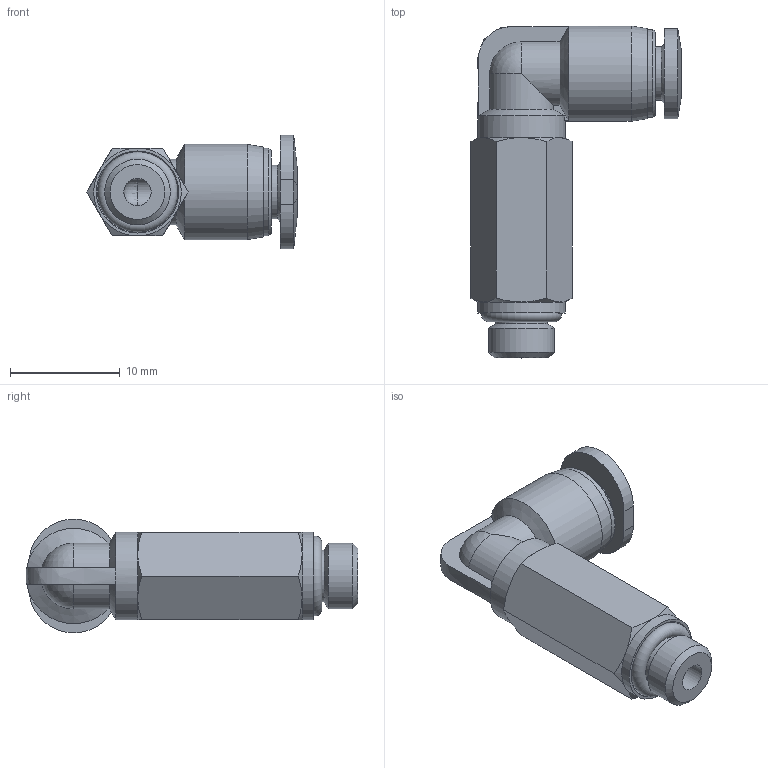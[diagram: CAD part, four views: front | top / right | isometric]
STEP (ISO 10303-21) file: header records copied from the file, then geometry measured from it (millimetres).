
FILE_DESCRIPTION((''),'2;1');
FILE_NAME('D:\INVENTOR\[New Inventor]\CDC Products 3D Ass''y\Compact One-Touch Fittings\Metric\PLL-C\PLL04-M6C.stp','2010-10-05T17:31:35',('Microsoft'),(''),'Autodesk Inventor 2008','Autodesk Inventor 2008','');
FILE_SCHEMA(('AUTOMOTIVE_DESIGN { 1 0 10303 214 1 1 1 1 }'));
Length unit declared in the file: millimetre
Products named in the file (1): PLL04-M6C
Bounding box: 19.19 x 30.3 x 10.4 mm (x, y, z)
Volume: 1630.4 mm3; surface area: 1718.7 mm2
Topology: 2 solids, 2 shells, 71 faces, 165 edges, 97 vertices
Faces by surface type: cone 22, plane 21, cylinder 17, bspline 5, torus 3, sphere 3
Full cylindrical faces by diameter (mm): 2.5 x2, 4.2 x1, 4.7 x2, 4.9 x1, 6 x1, 8 x3, 8.7 x1
Entity records: 2100 total; most frequent: CARTESIAN_POINT 668, DIRECTION 300, ORIENTED_EDGE 270, AXIS2_PLACEMENT_3D 137, EDGE_CURVE 135, EDGE_LOOP 100, VERTEX_POINT 91, FACE_OUTER_BOUND 71
